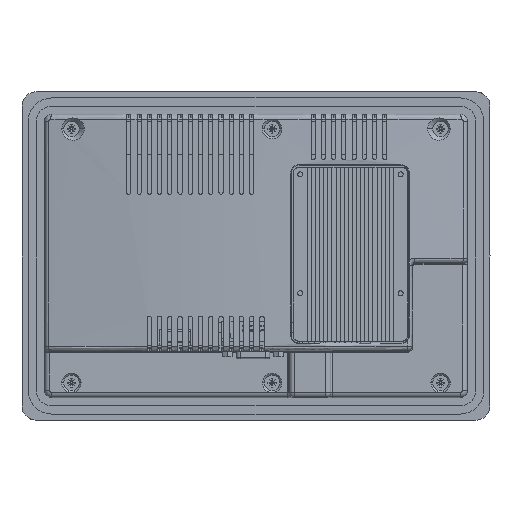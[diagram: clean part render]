
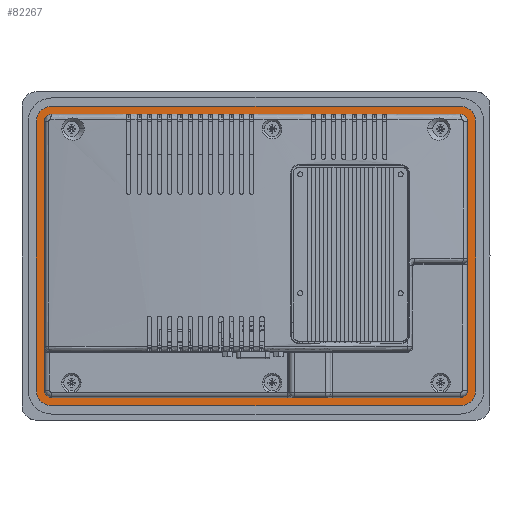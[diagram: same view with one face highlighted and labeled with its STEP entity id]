
A CAD part, top view. The second image highlights one B-rep face of the part: STEP entity #82267.
In plain terms, the highlighted planar face has unit normal (0, 0, 1).
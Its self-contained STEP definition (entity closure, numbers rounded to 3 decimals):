
#3125 = CARTESIAN_POINT ( 'NONE',  ( -1576.095, -737.842, -30.449 ) ) ;
#5160 = CARTESIAN_POINT ( 'NONE',  ( -1365.595, -869.142, -30.449 ) ) ;
#6535 = VECTOR ( 'NONE', #36749, 1000. ) ;
#8742 = LINE ( 'NONE', #194235, #118856 ) ;
#9356 = ORIENTED_EDGE ( 'NONE', *, *, #255013, .F. ) ;
#9808 = DIRECTION ( 'NONE',  ( 0., 1., 0. ) ) ;
#9825 = VERTEX_POINT ( 'NONE', #165854 ) ;
#12173 = DIRECTION ( 'NONE',  ( 0., 0., 1. ) ) ;
#12403 = EDGE_CURVE ( 'Edge103', #205866, #84955, #13604, .T. ) ;
#12881 = CIRCLE ( 'NONE', #232984, 7.5 ) ;
#13604 = LINE ( 'NONE', #94307, #19280 ) ;
#16065 = VERTEX_POINT ( 'NONE', #5160 ) ;
#19280 = VECTOR ( 'NONE', #74430, 1000. ) ;
#19503 = AXIS2_PLACEMENT_3D ( 'NONE', #138742, #175974, #261050 ) ;
#23105 = VERTEX_POINT ( 'NONE', #91186 ) ;
#23247 = EDGE_LOOP ( 'NONE', ( #157188, #259135, #48948, #236978, #88066, #9356, #64209, #247479 ) ) ;
#25167 = AXIS2_PLACEMENT_3D ( 'NONE', #65690, #27291, #105398 ) ;
#26417 = EDGE_CURVE ( 'Edge173', #68388, #85373, #12881, .T. ) ;
#27291 = DIRECTION ( 'NONE',  ( 0., 0., 1. ) ) ;
#28410 = VERTEX_POINT ( 'NONE', #112930 ) ;
#29421 = FACE_BOUND ( 'NONE', #23247, .T. ) ;
#30126 = DIRECTION ( 'NONE',  ( 1., 0., 0. ) ) ;
#36749 = DIRECTION ( 'NONE',  ( 0., 1., 0. ) ) ;
#48948 = ORIENTED_EDGE ( 'NONE', *, *, #156588, .F. ) ;
#49282 = CARTESIAN_POINT ( 'NONE',  ( -1576.095, -869.142, -30.449 ) ) ;
#57645 = DIRECTION ( 'NONE',  ( 0., 0., 1. ) ) ;
#57805 = DIRECTION ( 'NONE',  ( 0., 0., 1. ) ) ;
#58944 = CIRCLE ( 'NONE', #25167, 3.5 ) ;
#62121 = EDGE_CURVE ( 'Edge113', #72023, #99913, #183301, .T. ) ;
#63654 = LINE ( 'NONE', #182981, #104025 ) ;
#64209 = ORIENTED_EDGE ( 'NONE', *, *, #249648, .F. ) ;
#65690 = CARTESIAN_POINT ( 'NONE',  ( -1572.595, -869.142, -30.449 ) ) ;
#67478 = CARTESIAN_POINT ( 'NONE',  ( -1572.595, -872.642, -30.449 ) ) ;
#68388 = VERTEX_POINT ( 'NONE', #166305 ) ;
#70723 = EDGE_CURVE ( 'Edge95', #16065, #108069, #181169, .T. ) ;
#72023 = VERTEX_POINT ( 'NONE', #174059 ) ;
#73931 = VECTOR ( 'NONE', #79621, 1000. ) ;
#74430 = DIRECTION ( 'NONE',  ( -1., 0., 0. ) ) ;
#75067 = AXIS2_PLACEMENT_3D ( 'NONE', #243508, #57805, #121301 ) ;
#79621 = DIRECTION ( 'NONE',  ( -1., 0., 0. ) ) ;
#80068 = DIRECTION ( 'NONE',  ( 1., 0., 0. ) ) ;
#81849 = CARTESIAN_POINT ( 'NONE',  ( -1373.095, -737.842, -30.449 ) ) ;
#82267 = ADVANCED_FACE ( 'Face78', ( #29421, #192412 ), #211053, .T. ) ;
#82272 = CARTESIAN_POINT ( 'NONE',  ( -1572.595, -876.642, -30.449 ) ) ;
#83140 = AXIS2_PLACEMENT_3D ( 'NONE', #85293, #168834, #187412 ) ;
#83555 = ORIENTED_EDGE ( 'NONE', *, *, #120030, .T. ) ;
#84955 = VERTEX_POINT ( 'NONE', #101162 ) ;
#85293 = CARTESIAN_POINT ( 'NONE',  ( -1373.095, -737.842, -30.449 ) ) ;
#85373 = VERTEX_POINT ( 'NONE', #82272 ) ;
#87453 = AXIS2_PLACEMENT_3D ( 'NONE', #180868, #57645, #80068 ) ;
#88066 = ORIENTED_EDGE ( 'NONE', *, *, #100044, .F. ) ;
#90173 = CARTESIAN_POINT ( 'NONE',  ( -1365.595, -737.842, -30.449 ) ) ;
#91186 = CARTESIAN_POINT ( 'NONE',  ( -1572.595, -872.642, -30.449 ) ) ;
#91589 = CARTESIAN_POINT ( 'NONE',  ( -1572.595, -869.142, -30.449 ) ) ;
#94307 = CARTESIAN_POINT ( 'NONE',  ( -1373.095, -734.342, -30.449 ) ) ;
#95498 = DIRECTION ( 'NONE',  ( 1., 0., 0. ) ) ;
#96068 = CIRCLE ( 'NONE', #75067, 3.5 ) ;
#99174 = CARTESIAN_POINT ( 'NONE',  ( -1373.095, -872.642, -30.449 ) ) ;
#99216 = AXIS2_PLACEMENT_3D ( 'NONE', #81849, #128170, #30126 ) ;
#99913 = VERTEX_POINT ( 'NONE', #49282 ) ;
#100044 = EDGE_CURVE ( 'NONE', #247638, #205866, #205163, .T. ) ;
#101162 = CARTESIAN_POINT ( 'NONE',  ( -1572.595, -734.342, -30.449 ) ) ;
#102089 = CARTESIAN_POINT ( 'NONE',  ( -1572.595, -730.342, -30.449 ) ) ;
#104025 = VECTOR ( 'NONE', #123267, 1000. ) ;
#105398 = DIRECTION ( 'NONE',  ( 1., 0., 0. ) ) ;
#108069 = VERTEX_POINT ( 'NONE', #90173 ) ;
#110715 = CIRCLE ( 'NONE', #144558, 7.5 ) ;
#111393 = CARTESIAN_POINT ( 'NONE',  ( -1373.095, -730.342, -30.449 ) ) ;
#112283 = ORIENTED_EDGE ( 'NONE', *, *, #191738, .T. ) ;
#112930 = CARTESIAN_POINT ( 'NONE',  ( -1580.095, -737.842, -30.449 ) ) ;
#116760 = ORIENTED_EDGE ( 'NONE', *, *, #222026, .T. ) ;
#118856 = VECTOR ( 'NONE', #192903, 1000. ) ;
#120030 = EDGE_CURVE ( 'Edge104', #9825, #28410, #214226, .T. ) ;
#121301 = DIRECTION ( 'NONE',  ( 1., 0., 0. ) ) ;
#123267 = DIRECTION ( 'NONE',  ( 0., -1., 0. ) ) ;
#126103 = VERTEX_POINT ( 'NONE', #172168 ) ;
#128170 = DIRECTION ( 'NONE',  ( 0., 0., 1. ) ) ;
#133784 = ORIENTED_EDGE ( 'NONE', *, *, #70723, .T. ) ;
#138742 = CARTESIAN_POINT ( 'NONE',  ( -1572.595, -737.842, -30.449 ) ) ;
#144558 = AXIS2_PLACEMENT_3D ( 'NONE', #232990, #251666, #213050 ) ;
#147783 = DIRECTION ( 'NONE',  ( 1., 0., 0. ) ) ;
#147816 = CARTESIAN_POINT ( 'NONE',  ( -1369.595, -737.842, -30.449 ) ) ;
#150389 = DIRECTION ( 'NONE',  ( 0., 0., 1. ) ) ;
#153711 = CARTESIAN_POINT ( 'NONE',  ( -1373.095, -734.342, -30.449 ) ) ;
#156588 = EDGE_CURVE ( 'Edge171', #84955, #72023, #96068, .T. ) ;
#157188 = ORIENTED_EDGE ( 'NONE', *, *, #198430, .F. ) ;
#161521 = VECTOR ( 'NONE', #210721, 1000. ) ;
#165854 = CARTESIAN_POINT ( 'NONE',  ( -1572.595, -730.342, -30.449 ) ) ;
#165911 = VERTEX_POINT ( 'NONE', #111393 ) ;
#166305 = CARTESIAN_POINT ( 'NONE',  ( -1580.095, -869.142, -30.449 ) ) ;
#168834 = DIRECTION ( 'NONE',  ( 0., 0., 1. ) ) ;
#172168 = CARTESIAN_POINT ( 'NONE',  ( -1373.095, -876.642, -30.449 ) ) ;
#174059 = CARTESIAN_POINT ( 'NONE',  ( -1576.095, -737.842, -30.449 ) ) ;
#175974 = DIRECTION ( 'NONE',  ( 0., 0., 1. ) ) ;
#177440 = AXIS2_PLACEMENT_3D ( 'NONE', #91589, #12173, #95498 ) ;
#180868 = CARTESIAN_POINT ( 'NONE',  ( -1373.095, -869.142, -30.449 ) ) ;
#181169 = LINE ( 'NONE', #237108, #6535 ) ;
#182981 = CARTESIAN_POINT ( 'NONE',  ( -1580.095, -869.142, -30.449 ) ) ;
#183301 = LINE ( 'NONE', #3125, #231049 ) ;
#186516 = ORIENTED_EDGE ( 'NONE', *, *, #245166, .T. ) ;
#187412 = DIRECTION ( 'NONE',  ( 1., 0., 0. ) ) ;
#189477 = LINE ( 'NONE', #67478, #161521 ) ;
#191340 = CARTESIAN_POINT ( 'NONE',  ( -1369.595, -869.142, -30.449 ) ) ;
#191738 = EDGE_CURVE ( 'Edge102', #165911, #9825, #261559, .T. ) ;
#192412 = FACE_OUTER_BOUND ( 'NONE', #203926, .T. ) ;
#192903 = DIRECTION ( 'NONE',  ( 1., 0., 0. ) ) ;
#194235 = CARTESIAN_POINT ( 'NONE',  ( -1572.595, -876.642, -30.449 ) ) ;
#198430 = EDGE_CURVE ( 'Edge109', #99913, #23105, #58944, .T. ) ;
#203926 = EDGE_LOOP ( 'NONE', ( #210364, #116760, #186516, #133784, #261367, #112283, #83555, #221560 ) ) ;
#205163 = CIRCLE ( 'NONE', #99216, 3.5 ) ;
#205866 = VERTEX_POINT ( 'NONE', #153711 ) ;
#206062 = LINE ( 'NONE', #191340, #224490 ) ;
#207594 = CARTESIAN_POINT ( 'NONE',  ( -1572.595, -869.142, -30.449 ) ) ;
#210364 = ORIENTED_EDGE ( 'NONE', *, *, #26417, .T. ) ;
#210721 = DIRECTION ( 'NONE',  ( 1., 0., 0. ) ) ;
#211053 = PLANE ( 'NONE',  #177440 ) ;
#213050 = DIRECTION ( 'NONE',  ( 1., 0., 0. ) ) ;
#214226 = CIRCLE ( 'NONE', #19503, 7.5 ) ;
#216601 = EDGE_CURVE ( 'NONE', #108069, #165911, #231504, .T. ) ;
#221560 = ORIENTED_EDGE ( 'NONE', *, *, #250502, .T. ) ;
#222026 = EDGE_CURVE ( 'Edge146', #85373, #126103, #8742, .T. ) ;
#224490 = VECTOR ( 'NONE', #9808, 1000. ) ;
#225296 = VERTEX_POINT ( 'NONE', #261746 ) ;
#231049 = VECTOR ( 'NONE', #241857, 1000. ) ;
#231504 = CIRCLE ( 'NONE', #83140, 7.5 ) ;
#232984 = AXIS2_PLACEMENT_3D ( 'NONE', #207594, #150389, #147783 ) ;
#232990 = CARTESIAN_POINT ( 'NONE',  ( -1373.095, -869.142, -30.449 ) ) ;
#233593 = VERTEX_POINT ( 'NONE', #99174 ) ;
#236978 = ORIENTED_EDGE ( 'NONE', *, *, #12403, .F. ) ;
#237108 = CARTESIAN_POINT ( 'NONE',  ( -1365.595, -869.142, -30.449 ) ) ;
#241857 = DIRECTION ( 'NONE',  ( 0., -1., 0. ) ) ;
#243508 = CARTESIAN_POINT ( 'NONE',  ( -1572.595, -737.842, -30.449 ) ) ;
#243815 = EDGE_CURVE ( 'Edge94', #23105, #233593, #189477, .T. ) ;
#245166 = EDGE_CURVE ( 'Edge154', #126103, #16065, #110715, .T. ) ;
#247479 = ORIENTED_EDGE ( 'NONE', *, *, #243815, .F. ) ;
#247638 = VERTEX_POINT ( 'NONE', #147816 ) ;
#249648 = EDGE_CURVE ( 'NONE', #233593, #225296, #252730, .T. ) ;
#250502 = EDGE_CURVE ( 'Edge105', #28410, #68388, #63654, .T. ) ;
#251666 = DIRECTION ( 'NONE',  ( 0., 0., 1. ) ) ;
#252730 = CIRCLE ( 'NONE', #87453, 3.5 ) ;
#255013 = EDGE_CURVE ( 'Edge120', #225296, #247638, #206062, .T. ) ;
#259135 = ORIENTED_EDGE ( 'NONE', *, *, #62121, .F. ) ;
#261050 = DIRECTION ( 'NONE',  ( 1., 0., 0. ) ) ;
#261367 = ORIENTED_EDGE ( 'NONE', *, *, #216601, .T. ) ;
#261559 = LINE ( 'NONE', #102089, #73931 ) ;
#261746 = CARTESIAN_POINT ( 'NONE',  ( -1369.595, -869.142, -30.449 ) ) ;
